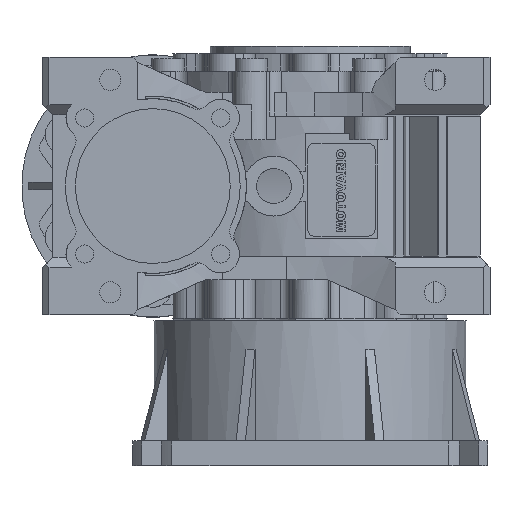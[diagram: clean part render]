
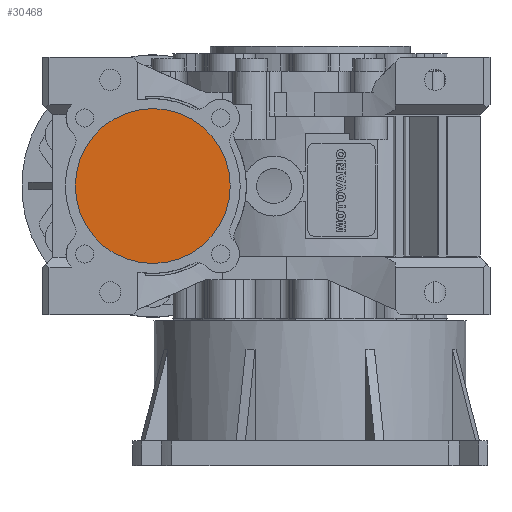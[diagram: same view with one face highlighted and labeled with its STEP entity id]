
A CAD part, left-side view. The second image highlights one B-rep face of the part: STEP entity #30468.
In plain terms, the highlighted planar face has unit normal (-1, 0, 0) as drawn and (0, 0, -1) by its records, which use the part's own axes.
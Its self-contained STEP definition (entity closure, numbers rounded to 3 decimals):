
#699=PLANE('',#33069);
#1960=CIRCLE('',#33068,31.);
#7227=ORIENTED_EDGE('',*,*,#14524,.F.);
#14524=EDGE_CURVE('',#18370,#18370,#1960,.T.);
#18370=VERTEX_POINT('',#50026);
#25769=EDGE_LOOP('',(#7227));
#27833=FACE_BOUND('',#25769,.T.);
#30468=ADVANCED_FACE('',(#27833),#699,.T.);
#33068=AXIS2_PLACEMENT_3D('',#50025,#39443,#39444);
#33069=AXIS2_PLACEMENT_3D('',#50027,#39445,#39446);
#39443=DIRECTION('',(0.,0.,1.));
#39444=DIRECTION('',(1.,0.,0.));
#39445=DIRECTION('',(0.,0.,-1.));
#39446=DIRECTION('',(-1.,0.,0.));
#50025=CARTESIAN_POINT('',(0.,63.,-70.5));
#50026=CARTESIAN_POINT('',(31.,63.,-70.5));
#50027=CARTESIAN_POINT('',(31.,63.,-70.5));
